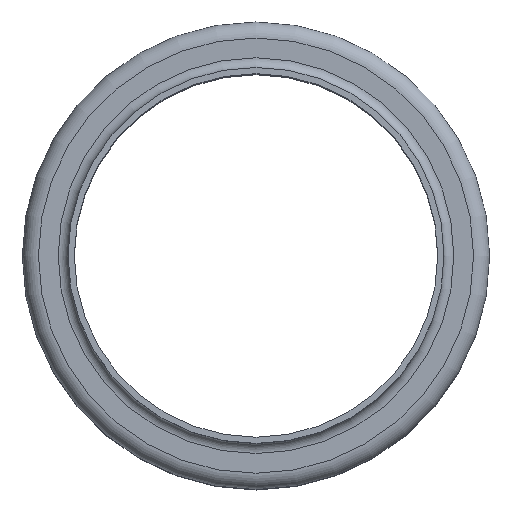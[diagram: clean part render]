
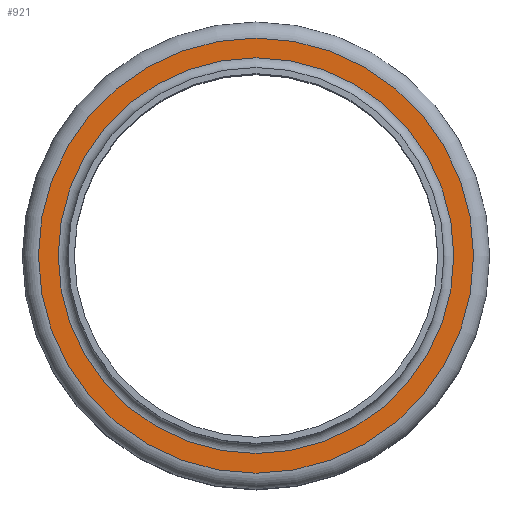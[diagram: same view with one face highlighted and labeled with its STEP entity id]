
A CAD part, top view. The second image highlights one B-rep face of the part: STEP entity #921.
In plain terms, the highlighted planar face has unit normal (0, 0, 1).
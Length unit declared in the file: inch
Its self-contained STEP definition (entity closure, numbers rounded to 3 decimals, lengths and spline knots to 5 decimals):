
#98=FACE_BOUND('',#272,.T.);
#165=FACE_OUTER_BOUND('',#271,.T.);
#271=EDGE_LOOP('',(#772));
#272=EDGE_LOOP('',(#773));
#385=CIRCLE('',#1110,1.905);
#386=CIRCLE('',#1112,2.095);
#466=VERTEX_POINT('',#1734);
#467=VERTEX_POINT('',#1738);
#571=EDGE_CURVE('',#466,#466,#385,.T.);
#572=EDGE_CURVE('',#467,#467,#386,.T.);
#772=ORIENTED_EDGE('',*,*,#572,.F.);
#773=ORIENTED_EDGE('',*,*,#571,.T.);
#854=PLANE('',#1111);
#921=ADVANCED_FACE('',(#165,#98),#854,.T.);
#1110=AXIS2_PLACEMENT_3D('',#1736,#1446,#1447);
#1111=AXIS2_PLACEMENT_3D('',#1737,#1448,#1449);
#1112=AXIS2_PLACEMENT_3D('',#1739,#1450,#1451);
#1446=DIRECTION('center_axis',(0.,0.,-1.));
#1447=DIRECTION('ref_axis',(1.,0.,0.));
#1448=DIRECTION('center_axis',(0.,0.,1.));
#1449=DIRECTION('ref_axis',(1.,0.,0.));
#1450=DIRECTION('center_axis',(0.,0.,-1.));
#1451=DIRECTION('ref_axis',(1.,0.,0.));
#1734=CARTESIAN_POINT('',(1.905,0.,-0.095));
#1736=CARTESIAN_POINT('Origin',(0.,0.,-0.095));
#1737=CARTESIAN_POINT('Origin',(0.,2.095,-0.095));
#1738=CARTESIAN_POINT('',(2.095,0.,-0.095));
#1739=CARTESIAN_POINT('Origin',(0.,0.,-0.095));
